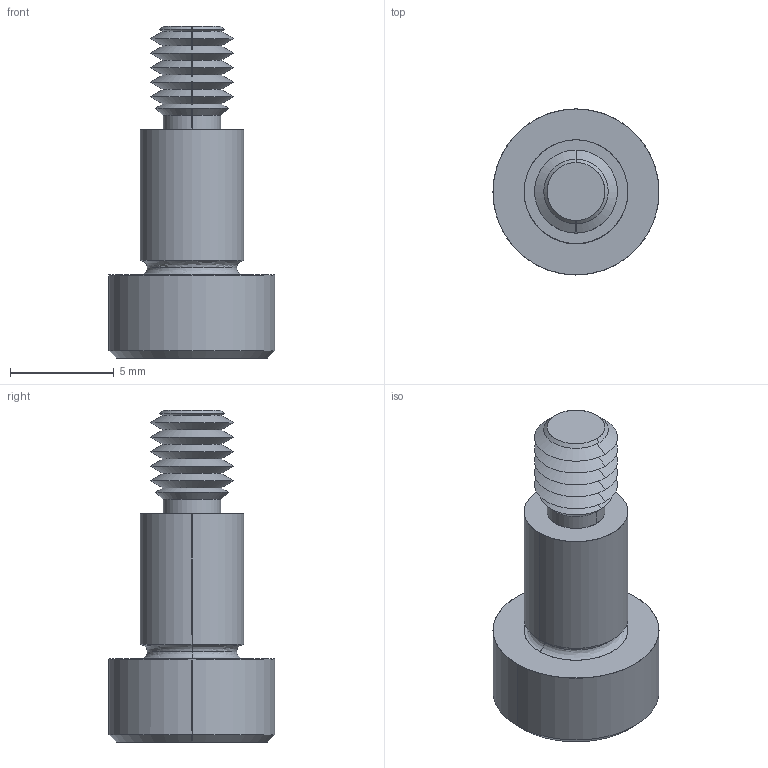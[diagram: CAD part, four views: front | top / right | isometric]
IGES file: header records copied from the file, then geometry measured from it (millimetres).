
Start section: SolidWorks IGES file using analytic representation for surfaces
Global section: file name: C:\Users\IanO\Documents\Temp Folder\GENERAL\SCREW REVISION\P0130_v2\P0130.T5_v2_20220106_IGES\P0130.050-007-T5.igs; native system: SolidWorks 2019; preprocessor: SolidWorks 2019; author: IanO; date: 220106.221352; units: millimetre
Bounding box: 8 x 8 x 16 mm (x, y, z)
Surface area: 425.9 mm2 (no closed solid volume)
Topology: 0 solids, 0 shells, 64 faces, 504 edges, 502 vertices
Faces by surface type: revolution 44, bspline 20
